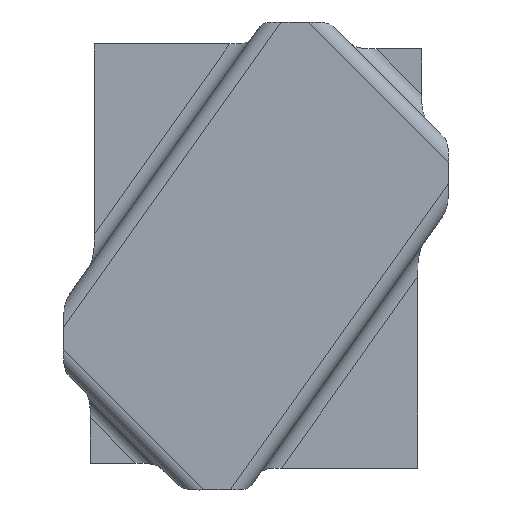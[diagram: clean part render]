
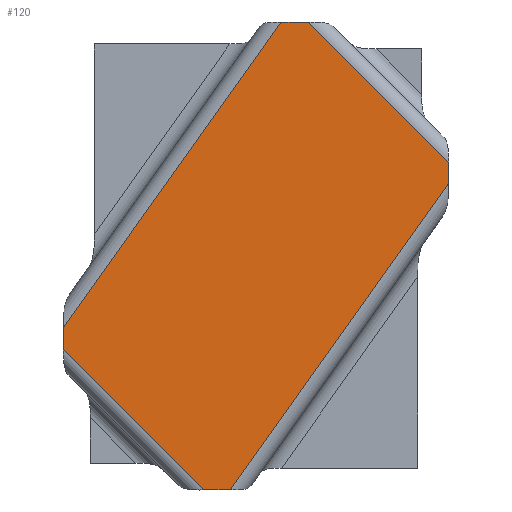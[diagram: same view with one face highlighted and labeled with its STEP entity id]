
A CAD part, top view. The second image highlights one B-rep face of the part: STEP entity #120.
In plain terms, the highlighted planar face has unit normal (0, 0, -1).
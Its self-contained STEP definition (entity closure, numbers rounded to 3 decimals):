
#53=CARTESIAN_POINT('Axis2P3D Location',(-52.278,37.163,64.641)) ;
#59=CARTESIAN_POINT('Control Point',(-52.278,76.32,64.641)) ;
#60=CARTESIAN_POINT('Control Point',(0.216,150.163,64.641)) ;
#61=CARTESIAN_POINT('Vertex',(-52.278,76.32,64.641)) ;
#63=CARTESIAN_POINT('Vertex',(0.216,150.163,64.641)) ;
#66=CARTESIAN_POINT('Line Origine',(-5.778,150.163,64.641)) ;
#70=CARTESIAN_POINT('Vertex',(6.896,150.163,64.641)) ;
#74=CARTESIAN_POINT('Control Point',(6.896,150.163,64.641)) ;
#75=CARTESIAN_POINT('Control Point',(40.722,116.337,64.641)) ;
#76=CARTESIAN_POINT('Vertex',(40.722,116.337,64.641)) ;
#79=CARTESIAN_POINT('Line Origine',(40.722,93.663,64.641)) ;
#83=CARTESIAN_POINT('Vertex',(40.722,111.266,64.641)) ;
#87=CARTESIAN_POINT('Control Point',(40.722,111.266,64.641)) ;
#88=CARTESIAN_POINT('Control Point',(-11.956,37.163,64.641)) ;
#89=CARTESIAN_POINT('Vertex',(-11.956,37.163,64.641)) ;
#92=CARTESIAN_POINT('Line Origine',(-5.778,37.163,64.641)) ;
#96=CARTESIAN_POINT('Vertex',(-18.452,37.163,64.641)) ;
#100=CARTESIAN_POINT('Control Point',(-52.278,70.989,64.641)) ;
#101=CARTESIAN_POINT('Control Point',(-18.452,37.163,64.641)) ;
#102=CARTESIAN_POINT('Vertex',(-52.278,70.989,64.641)) ;
#105=CARTESIAN_POINT('Line Origine',(-52.278,93.663,64.641)) ;
#54=DIRECTION('Axis2P3D Direction',(0.,0.,1.)) ;
#55=DIRECTION('Axis2P3D XDirection',(1.,0.,0.)) ;
#67=DIRECTION('Vector Direction',(1.,0.,0.)) ;
#80=DIRECTION('Vector Direction',(0.,1.,0.)) ;
#93=DIRECTION('Vector Direction',(1.,0.,0.)) ;
#106=DIRECTION('Vector Direction',(0.,1.,0.)) ;
#56=AXIS2_PLACEMENT_3D('Plane Axis2P3D',#53,#54,#55) ;
#111=ORIENTED_EDGE('',*,*,#65,.T.) ;
#112=ORIENTED_EDGE('',*,*,#72,.T.) ;
#113=ORIENTED_EDGE('',*,*,#78,.T.) ;
#114=ORIENTED_EDGE('',*,*,#85,.T.) ;
#115=ORIENTED_EDGE('',*,*,#91,.T.) ;
#116=ORIENTED_EDGE('',*,*,#98,.T.) ;
#117=ORIENTED_EDGE('',*,*,#104,.F.) ;
#118=ORIENTED_EDGE('',*,*,#109,.T.) ;
#68=VECTOR('Line Direction',#67,1.) ;
#81=VECTOR('Line Direction',#80,1.) ;
#94=VECTOR('Line Direction',#93,1.) ;
#107=VECTOR('Line Direction',#106,1.) ;
#120=ADVANCED_FACE('Offset.1',(#119),#57,.F.) ;
#58=B_SPLINE_CURVE_WITH_KNOTS('',1,(#59,#60),.UNSPECIFIED.,.F.,.U.,(2,2),(-45.3,45.3),.UNSPECIFIED.) ;
#73=B_SPLINE_CURVE_WITH_KNOTS('',1,(#74,#75),.UNSPECIFIED.,.F.,.U.,(2,2),(-23.919,23.919),.UNSPECIFIED.) ;
#86=B_SPLINE_CURVE_WITH_KNOTS('',1,(#87,#88),.UNSPECIFIED.,.F.,.U.,(2,2),(-45.459,45.459),.UNSPECIFIED.) ;
#99=B_SPLINE_CURVE_WITH_KNOTS('',1,(#100,#101),.UNSPECIFIED.,.F.,.U.,(2,2),(-23.919,23.919),.UNSPECIFIED.) ;
#65=EDGE_CURVE('',#62,#64,#58,.T.) ;
#72=EDGE_CURVE('',#64,#71,#69,.T.) ;
#78=EDGE_CURVE('',#71,#77,#73,.T.) ;
#85=EDGE_CURVE('',#77,#84,#82,.F.) ;
#91=EDGE_CURVE('',#84,#90,#86,.T.) ;
#98=EDGE_CURVE('',#90,#97,#95,.F.) ;
#104=EDGE_CURVE('',#103,#97,#99,.T.) ;
#109=EDGE_CURVE('',#103,#62,#108,.T.) ;
#110=EDGE_LOOP('',(#111,#112,#113,#114,#115,#116,#117,#118)) ;
#119=FACE_OUTER_BOUND('',#110,.T.) ;
#69=LINE('Line',#66,#68) ;
#82=LINE('Line',#79,#81) ;
#95=LINE('Line',#92,#94) ;
#108=LINE('Line',#105,#107) ;
#57=PLANE('',#56) ;
#62=VERTEX_POINT('',#61) ;
#64=VERTEX_POINT('',#63) ;
#71=VERTEX_POINT('',#70) ;
#77=VERTEX_POINT('',#76) ;
#84=VERTEX_POINT('',#83) ;
#90=VERTEX_POINT('',#89) ;
#97=VERTEX_POINT('',#96) ;
#103=VERTEX_POINT('',#102) ;
